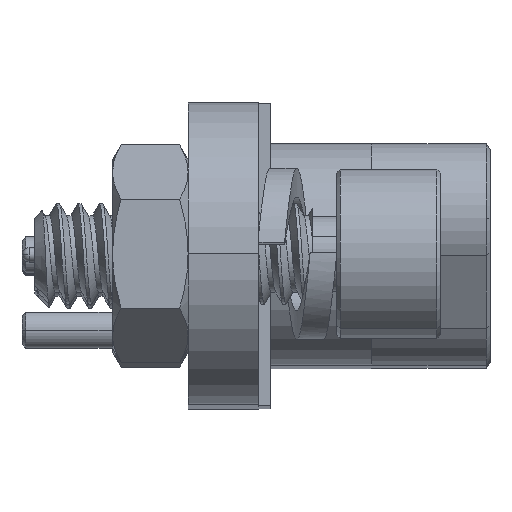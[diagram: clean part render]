
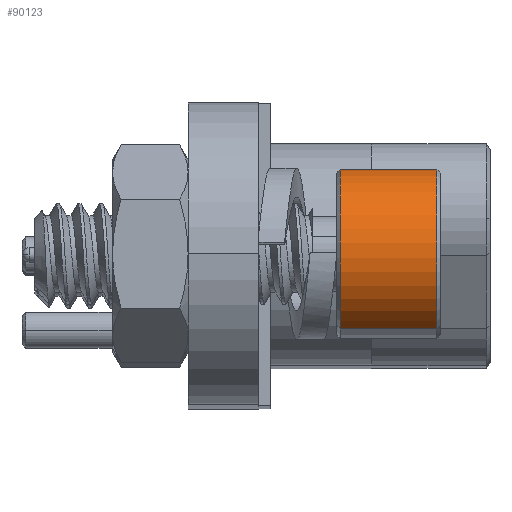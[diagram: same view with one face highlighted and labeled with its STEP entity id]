
A CAD part, top view. The second image highlights one B-rep face of the part: STEP entity #90123.
In plain terms, the highlighted cylindrical face has radius 1.778 mm (diameter 3.556 mm), a partial arc.
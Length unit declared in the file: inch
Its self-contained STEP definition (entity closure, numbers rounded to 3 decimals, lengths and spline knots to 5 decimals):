
#1303 = CARTESIAN_POINT ( 'NONE',  ( 0.126, 0.06278, -0.05942 ) ) ;
#3962 = AXIS2_PLACEMENT_3D ( 'NONE', #102570, #19492, #107080 ) ;
#10523 = EDGE_LOOP ( 'NONE', ( #42671, #78655, #46532, #57015 ) ) ;
#11847 = DIRECTION ( 'NONE',  ( 1., 0., 0. ) ) ;
#12356 = CARTESIAN_POINT ( 'NONE',  ( 0.209, 0.06278, -0.05942 ) ) ;
#13392 = DIRECTION ( 'NONE',  ( 1., 0., 0. ) ) ;
#14029 = AXIS2_PLACEMENT_3D ( 'NONE', #57209, #13392, #48568 ) ;
#19492 = DIRECTION ( 'NONE',  ( -1., 0., 0. ) ) ;
#22988 = VERTEX_POINT ( 'NONE', #54904 ) ;
#30269 = LINE ( 'NONE', #46424, #33674 ) ;
#33674 = VECTOR ( 'NONE', #11847, 39.37008 ) ;
#40540 = DIRECTION ( 'NONE',  ( 1., 0., 0. ) ) ;
#42671 = ORIENTED_EDGE ( 'NONE', *, *, #90957, .T. ) ;
#43875 = EDGE_CURVE ( 'NONE', #100698, #22988, #30269, .T. ) ;
#45366 = CIRCLE ( 'NONE', #14029, 0.07 ) ;
#46424 = CARTESIAN_POINT ( 'NONE',  ( 0.209, 0.18722, -0.12358 ) ) ;
#46532 = ORIENTED_EDGE ( 'NONE', *, *, #57967, .T. ) ;
#47834 = CYLINDRICAL_SURFACE ( 'NONE', #83802, 0.07 ) ;
#48568 = DIRECTION ( 'NONE',  ( 0., 0.889, -0.458 ) ) ;
#54904 = CARTESIAN_POINT ( 'NONE',  ( 0.206, 0.18722, -0.12358 ) ) ;
#56012 = EDGE_CURVE ( 'NONE', #90593, #92278, #93012, .T. ) ;
#57015 = ORIENTED_EDGE ( 'NONE', *, *, #43875, .F. ) ;
#57209 = CARTESIAN_POINT ( 'NONE',  ( 0.126, 0.125, -0.0915 ) ) ;
#57967 = EDGE_CURVE ( 'NONE', #92278, #22988, #94131, .T. ) ;
#58733 = DIRECTION ( 'NONE',  ( 0., 0.889, -0.458 ) ) ;
#66248 = DIRECTION ( 'NONE',  ( 1., 0., 0. ) ) ;
#67375 = CARTESIAN_POINT ( 'NONE',  ( 0.209, 0.125, -0.0915 ) ) ;
#78655 = ORIENTED_EDGE ( 'NONE', *, *, #56012, .T. ) ;
#80952 = VECTOR ( 'NONE', #40540, 39.37008 ) ;
#81918 = CARTESIAN_POINT ( 'NONE',  ( 0.126, 0.18722, -0.12358 ) ) ;
#83802 = AXIS2_PLACEMENT_3D ( 'NONE', #67375, #66248, #58733 ) ;
#85224 = FACE_OUTER_BOUND ( 'NONE', #10523, .T. ) ;
#85261 = CARTESIAN_POINT ( 'NONE',  ( 0.206, 0.06278, -0.05942 ) ) ;
#90123 = ADVANCED_FACE ( 'NONE', ( #85224 ), #47834, .T. ) ;
#90593 = VERTEX_POINT ( 'NONE', #1303 ) ;
#90957 = EDGE_CURVE ( 'NONE', #100698, #90593, #45366, .T. ) ;
#92278 = VERTEX_POINT ( 'NONE', #85261 ) ;
#93012 = LINE ( 'NONE', #12356, #80952 ) ;
#94131 = CIRCLE ( 'NONE', #3962, 0.07 ) ;
#100698 = VERTEX_POINT ( 'NONE', #81918 ) ;
#102570 = CARTESIAN_POINT ( 'NONE',  ( 0.206, 0.125, -0.0915 ) ) ;
#107080 = DIRECTION ( 'NONE',  ( 0., -0.889, 0.458 ) ) ;
